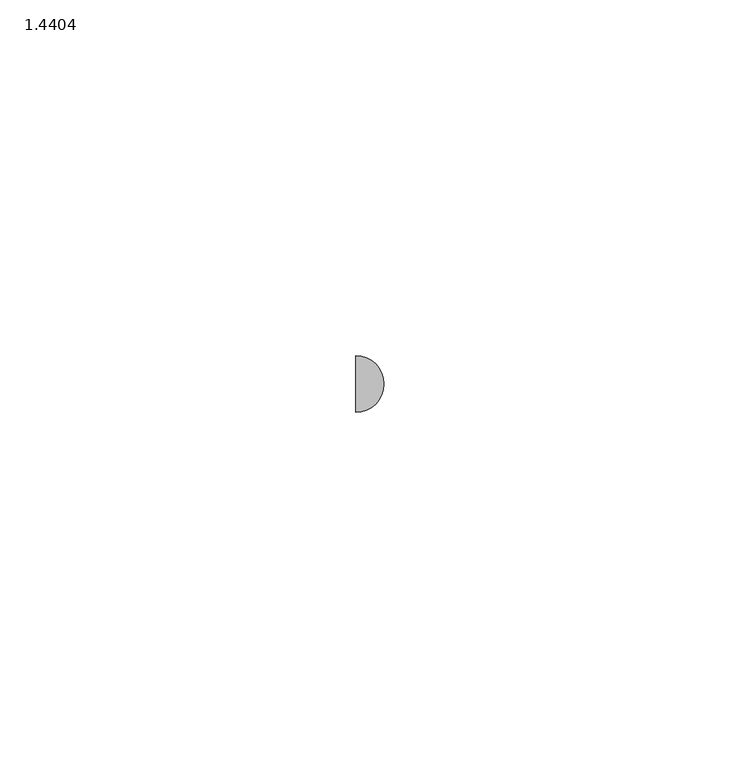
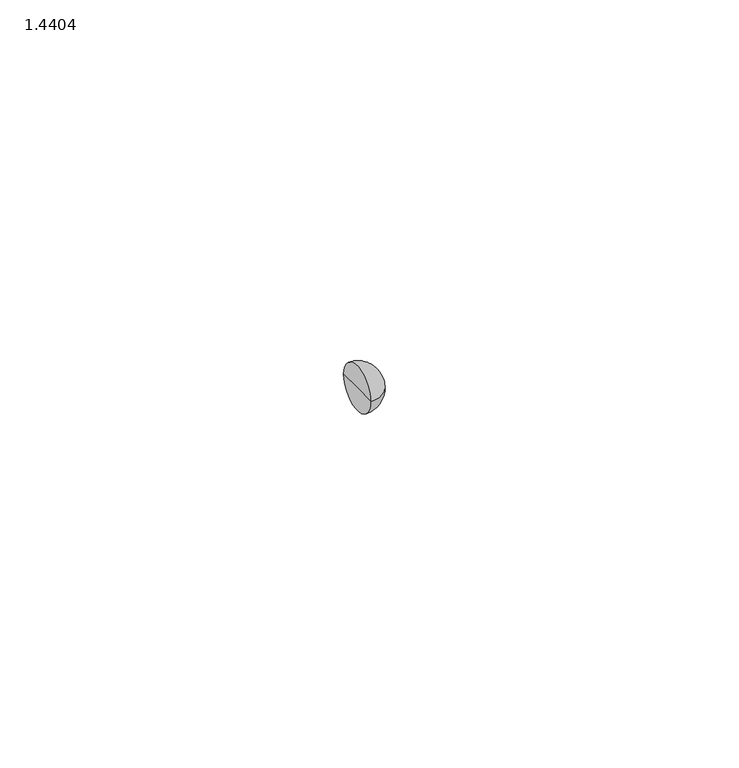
"""IFC4 building model written with IfcOpenShell, lengths in millimetres: pipe fitting geometry, PIF_ST_UN_ACO pipe double bend_ACO : 1.4404."""

from ifc_helpers import new_model, si_unit, point, frame, origin, place, context, project, spatial, circle_curve, ellipse_curve, trimmed, source, transform, mapped, element, save
from ifc_brep_helpers import plane_surface, revolved_surface, advanced_brep


def pipe_fitting_1_4404_a287a520(model_context):
    return source(origin(), model_context, "Body", "AdvancedBrep", [
        advanced_brep(
        [(-84.3602171, -4.0, 0.0), (-84.3602171, 4.0, 0.0), (-80.3602171, 0.0, 0.0), (-84.3602171, 0.0, 0.0)],
        [
            (0, 1, circle_curve(frame((-84.3602171, 0.0, 0.0), z_axis=(1.0, 0.0, 0.0), x_axis=(0.0, 1.0, 0.0)), 4.0)),
            (1, 2, circle_curve(frame((-84.3602171, 0.0, 0.0), z_axis=(0.0, 0.0, -1.0), x_axis=(-1.0, 0.0, 0.0)), 4.0)),
            (2, 0, circle_curve(frame((-84.3602171, 0.0, 0.0), z_axis=(0.0, 0.0, -1.0), x_axis=(-1.0, 0.0, 0.0)), 4.0)),
            (1, 0, circle_curve(frame((-84.3602171, 0.0, 0.0), z_axis=(1.0, 0.0, 0.0), x_axis=(0.0, 1.0, 0.0)), 4.0)),
            (3, 1),
            (0, 3),
        ],
        [
            revolved_surface(trimmed(ellipse_curve(frame((-84.3602171, 0.0, 0.0), z_axis=(0.0, 0.0, 1.0), x_axis=(-1.0, 0.0, 0.0)), 4.0, 4.0), [point((-80.3602171, 0.0, 0.0))], [point((-84.3602171, 4.0, 0.0))], True, "CARTESIAN"), (-91.3518945, 0.0, 0.0), (-1.0, 0.0, 0.0)),
            plane_surface(frame((-84.3602171, 0.0, 0.0), z_axis=(-1.0, 0.0, 0.0), x_axis=(0.0, 1.0, 0.0))),
        ],
        [
            (0, [[1, 2, 3]]),
            (0, [[4, -3, -2]]),
            (1, [[5, -1, 6]]),
            (1, [[-6, -4, -5]]),
        ],
    ),
    ])


if __name__ == "__main__":
    model = new_model("IFC4")
    model_context = context("Model", 3, world=origin())
    ifc_project = project(units=[si_unit("LENGTHUNIT", "METRE", prefix="MILLI")], contexts=[model_context])
    site = spatial("IfcSite", under=ifc_project)
    building = spatial("IfcBuilding", under=site)
    placement = place(None, origin())
    pipe_fitting_1_4404_shape = pipe_fitting_1_4404_a287a520(model_context)
    element("IfcPipeFitting", 1, ObjectType="PIF_ST_UN_ACO pipe double bend_ACO : 1.4404", at=placement, inside=building, context=model_context, shape_type="MappedRepresentation", body=[
        mapped(pipe_fitting_1_4404_shape, transform((0.0, 0.0, 0.0), x_axis=(1.0, 0.0, 0.0), y_axis=(0.0, 1.0, 0.0), z_axis=(0.0, 0.0, 1.0))),
    ])
    save(model, "model.ifc")
